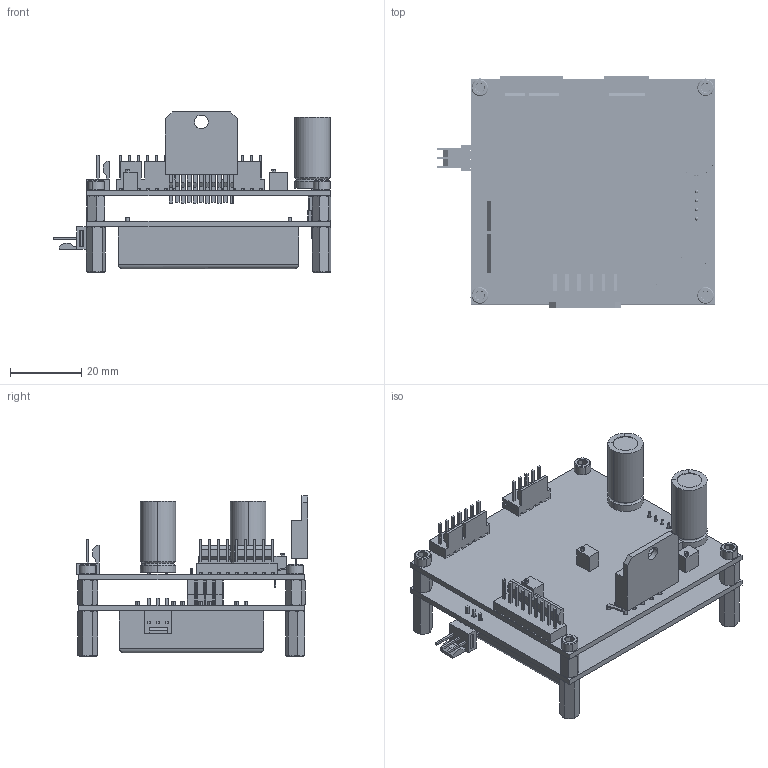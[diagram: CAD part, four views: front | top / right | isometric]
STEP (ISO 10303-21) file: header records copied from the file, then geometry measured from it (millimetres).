
FILE_DESCRIPTION (( 'STEP AP203' ), '1' );
FILE_NAME ('OIMC101D REV NC, Small OEM Ctrl With DC DC Converter Vertical Conn.STEP', '2020-05-29T02:11:34', ( '' ), ( '' ), 'SwSTEP 2.0', 'SolidWorks 2017', '' );
FILE_SCHEMA (( 'CONFIG_CONTROL_DESIGN' ));
Length unit declared in the file: inch
Products named in the file (17): OPA2544; User Library-Capacitor, Al El, Thru Mt, 2200uF, 25V - CDE #SEK222M025ST; pcb_connector_310-87-104-01-640101; Small OEM PCB; 022053031; CUI DC DC Converter; OIMC101D REV NC, Small OEM Ctrl With DC DC Converter Vertical Conn; DC DC PCB; MOD 022053051_1; 93505A464_ALUM MALE-FEM THRDED HEX STANDOFF_93505A464; pcb_connector_800-10-102-10-001101; OIMC101 REV NC, SMALL OEM CONTROLLER VERT CONNECTORS; Small Pot; MOD 022053091_1; 92196A105; 91780A533_ALUM FEM THRDED HEX STANDOFF_91780A533; MOD 022053071_1
Assembly tree (30 placements, depth 3):
  OIMC101D REV NC, Small OEM Ctrl With DC DC Converter Vertical Conn
    OIMC101 REV NC, SMALL OEM CONTROLLER VERT CONNECTORS
      Small OEM PCB
      User Library-Capacitor, Al El, Thru Mt, 2200uF, 25V - CDE #SEK222M025ST  x2
      92196A105  x4
      OPA2544
      Small Pot  x4
      MOD 022053051_1
      MOD 022053071_1
      MOD 022053091_1
    DC DC PCB
    CUI DC DC Converter
    91780A533_ALUM FEM THRDED HEX STANDOFF_91780A533  x4
    022053031
    pcb_connector_310-87-104-01-640101
    pcb_connector_800-10-102-10-001101  x2
    93505A464_ALUM MALE-FEM THRDED HEX STANDOFF_93505A464  x4
Bounding box: 78.2 x 65.07 x 45.02 mm (x, y, z)
Volume: 45819.8 mm3; surface area: 34696.3 mm2
Topology: 29 solids, 29 shells, 1912 faces, 4924 edges, 3156 vertices
Faces by surface type: plane 834, cylinder 678, cone 284, torus 48, bspline 44, sphere 24
Entity records: 44109 total; most frequent: CARTESIAN_POINT 12588, ORIENTED_EDGE 6152, DIRECTION 5917, EDGE_CURVE 3076, VECTOR 2091, LINE 2091, VERTEX_POINT 1996, AXIS2_PLACEMENT_3D 1913
